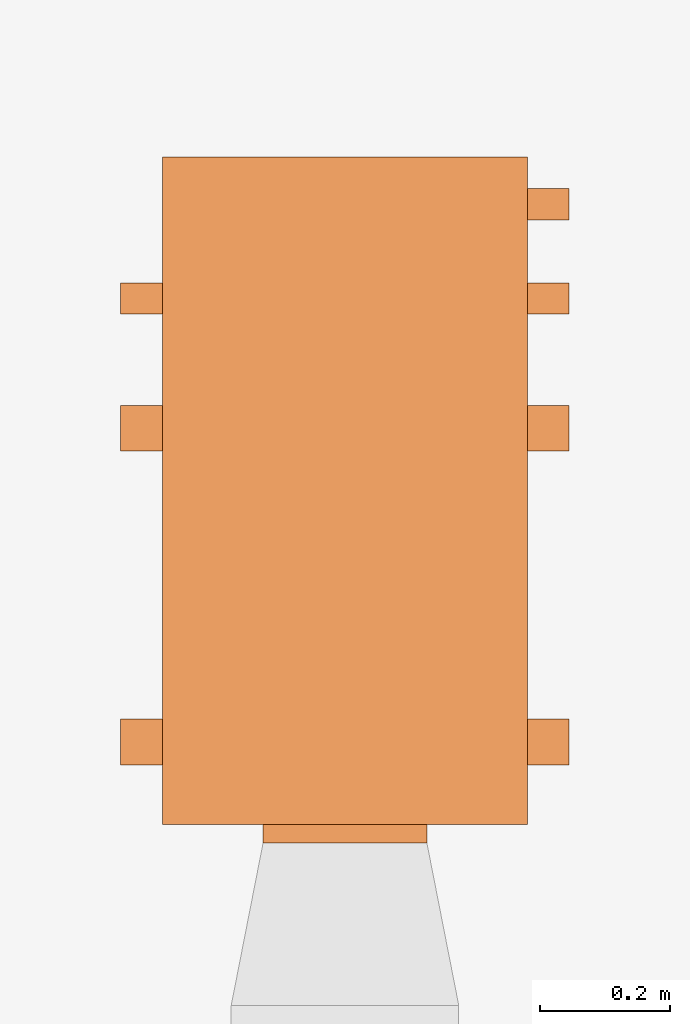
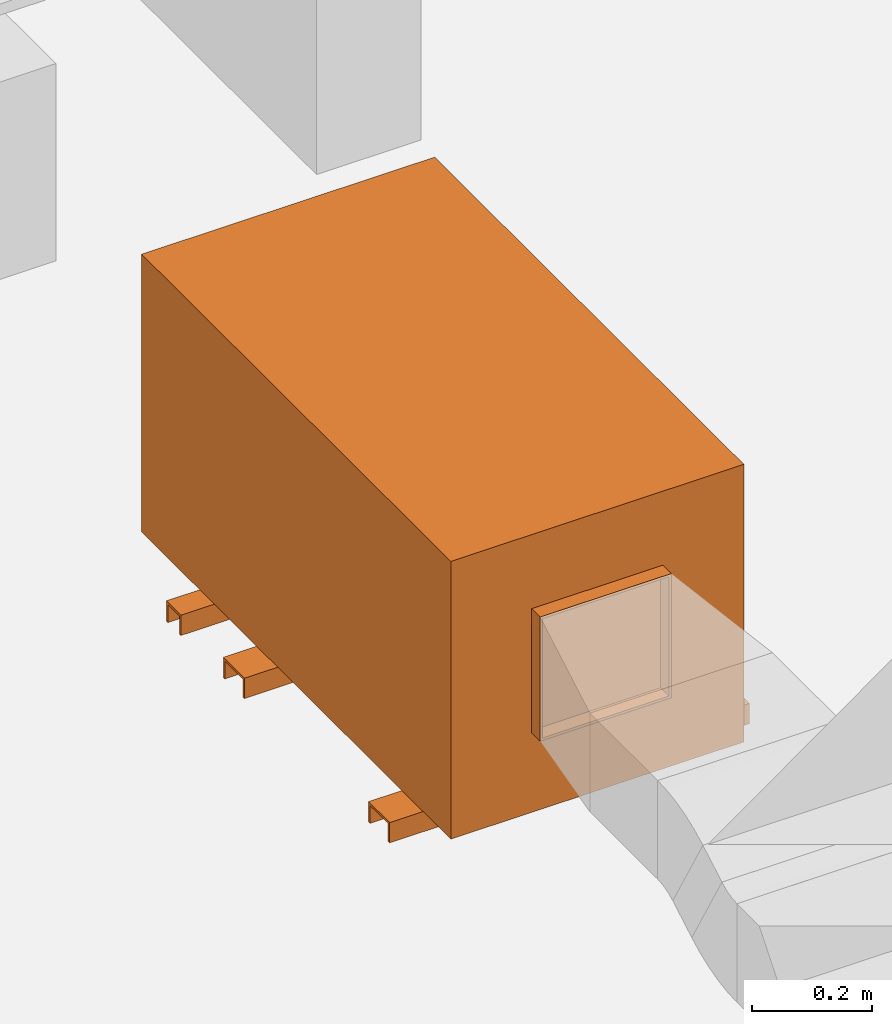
# One storey, part 9 of 10: 1 proxy.
"""IFC2X3 building model written with IfcOpenShell, lengths in millimetres."""

from ifc_helpers import new_model, entity, si_unit, converted_unit, derived_unit, direction, frame, frame_2d, origin, origin_2d_with_axis, place, context, subcontext, project, spatial, polyline, rectangle, hollow_circle, outline, extrude, source, transform, mapped, material, material_list, type_object, type_shapes, element, save


model = new_model("IFC2X3")

# Units and contexts
model_context = context("Model", 3, precision=0.01, world=origin(), true_north=direction((6.123233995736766e-17, 1.0)))
body_context = subcontext(model_context, "Body", "Model", "MODEL_VIEW")
ifc_project = project(units=[si_unit("LENGTHUNIT", "METRE", prefix="MILLI"), converted_unit("PLANEANGLEUNIT", "DEGREE", entity("IfcPlaneAngleMeasure", 0.017453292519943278), si_unit("PLANEANGLEUNIT", "RADIAN"), dimensions=[0, 0, 0, 0, 0, 0, 0]), si_unit("AREAUNIT", "SQUARE_METRE"), derived_unit("THERMALTRANSMITTANCEUNIT", [(si_unit("MASSUNIT", "GRAM", prefix="KILO"), 1), (si_unit("THERMODYNAMICTEMPERATUREUNIT", "KELVIN"), -1), (si_unit("TIMEUNIT", "SECOND"), -3)])], contexts=[model_context])

# Site, building, storey
site_placement = place(None, origin())
site = spatial("IfcSite", under=ifc_project, at=site_placement, Name="Default", CompositionType="ELEMENT")
building_placement = place(site_placement, origin())
building = spatial("IfcBuilding", under=site, at=building_placement, Name="Praça Pedro II, 1301 - Centro (Sul), Teresina - PI, 64001-100", CompositionType="ELEMENT")
storey_placement = place(building_placement, frame((0.0, 0.0, 9040.0)))
storey = spatial("IfcBuildingStorey", under=building, at=storey_placement, Name="LAJE TÉCNICA", CompositionType="ELEMENT", Elevation=9040.0)

# Proxy
ifc_material_1 = material(Name="Steel, Galvanized")
ifc_material_2 = material(Name="Fabric")
ifc_material_list = material_list([ifc_material_1, ifc_material_2])
building_element_proxy_type = type_object("IfcBuildingElementProxyType", Name="GLPF-200_1000-H-B-G4_M5:GLPF 280", PredefinedType="NOTDEFINED", material=ifc_material_list)
shared_shape = source(origin(), body_context, "Body", "SweptSolid", [
    extrude(rectangle(XDim=561.9999999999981, YDim=737.0000000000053, at=origin_2d_with_axis()), frame((0.0, 0.0, 41.0), z_axis=(0.0, 0.0, 1.0), x_axis=(-1.0, 0.0, 0.0)), (0.0, 0.0, 1.0), 4.999999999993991),
    extrude(outline(polyline([(-368.5000000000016, -281.0), (368.5000000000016, -281.0), (368.5000000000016, 281.0), (-368.5000000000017, 281.0), (-368.5000000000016, -281.0)]), holes=[polyline([(363.5000000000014, -276.0), (-363.5000000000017, -276.0), (-363.50000000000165, 276.0), (363.5000000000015, 276.0), (363.5000000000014, -276.0)])]), frame((0.0, 0.0, 46.0), z_axis=(0.0, 0.0, 1.0), x_axis=(0.0, 1.0, 0.0)), (0.0, 0.0, 1.0), 553.0000000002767),
    extrude(rectangle(XDim=562.0000000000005, YDim=737.0000000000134, at=origin_2d_with_axis()), frame((0.0, 0.0, 599.0), z_axis=(0.0, 0.0, 1.0), x_axis=(-1.0, 0.0, 0.0)), (0.0, 0.0, 1.0), 5.000000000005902),
    extrude(hollow_circle(Radius=190.00000000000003, WallThickness=50.00000000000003, at=frame_2d((-5.805957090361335e-15, -3.0455638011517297e-13), x_axis=(1.0, 0.0))), frame((0.0, 368.4999999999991, 302.0), z_axis=(0.0, 1.0, 0.0), x_axis=(-1.0, 0.0, 0.0)), (0.0, 0.0, 1.0), 5.000000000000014),
    extrude(outline(polyline([(-19.25000000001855, -35.1250000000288), (21.74999999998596, -35.1250000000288), (21.74999999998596, 35.12499999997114), (-19.250000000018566, 35.12499999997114), (-19.250000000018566, 30.125000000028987), (16.750000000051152, 30.125000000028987), (16.750000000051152, -30.12499999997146), (-19.25000000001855, -30.12499999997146), (-19.25000000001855, -35.1250000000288)])), frame((-345.0, 241.2499999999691, 19.250000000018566), z_axis=(1.0, 0.0, 0.0), x_axis=(0.0, 0.0, 1.0)), (0.0, 0.0, 1.0), 689.9999999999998),
    extrude(outline(polyline([(-19.250000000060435, -35.125000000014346), (21.75000000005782, -35.125000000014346), (21.75000000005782, 35.12500000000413), (-19.250000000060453, 35.12500000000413), (-19.250000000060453, 30.125000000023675), (16.750000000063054, 30.125000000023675), (16.750000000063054, -30.12500000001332), (-19.250000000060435, -30.12500000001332), (-19.250000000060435, -35.125000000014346)])), frame((-345.0, -241.2499999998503, 19.250000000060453), z_axis=(1.0, 0.0, 0.0), x_axis=(0.0, 0.0, 1.0)), (0.0, 0.0, 1.0), 689.9999999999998),
    extrude(outline(polyline([(-125.94999999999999, -125.94999999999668), (125.94999999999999, -125.94999999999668), (125.94999999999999, 125.94999999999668), (-125.94999999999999, 125.94999999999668), (-125.94999999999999, -125.94999999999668)]), holes=[polyline([(-120.95000000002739, 120.95000000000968), (120.94999999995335, 120.95000000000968), (120.94999999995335, -120.94999999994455), (-120.95000000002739, -120.94999999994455), (-120.95000000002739, 120.95000000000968)])]), frame((0.0, -396.4999999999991, 328.0), z_axis=(0.0, 1.0, 0.0), x_axis=(0.0, 0.0, -1.0)), (0.0, 0.0, 1.0), 27.999999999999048),
    extrude(outline(polyline([(-19.2500000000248, -24.166666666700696), (21.75000000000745, -24.166666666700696), (21.75000000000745, 24.166666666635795), (-19.25000000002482, 24.166666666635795), (-19.25000000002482, 19.166666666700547), (16.75000000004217, 19.166666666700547), (16.75000000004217, -19.16666666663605), (-19.2500000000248, -19.16666666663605), (-19.2500000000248, -24.166666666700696)])), frame((-345.0, 441.0, 19.25000000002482), z_axis=(1.0, 0.0, 0.0), x_axis=(0.0, 0.0, 1.0)), (0.0, 0.0, 1.0), 689.9999999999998),
    extrude(outline(polyline([(-281.0, -281.4999999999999), (281.0, -281.4999999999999), (281.0, 281.4999999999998), (-281.0, 281.4999999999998), (-281.0, -281.4999999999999)]), holes=[polyline([(-276.0, -276.50000000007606), (-276.0, 276.49999999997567), (276.0, 276.4999999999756), (276.0, -276.5000000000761), (-276.0, -276.50000000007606)])]), frame((0.0, 368.4999999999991, 322.5000000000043), z_axis=(0.0, 1.0, 0.0), x_axis=(1.0, 0.0, 0.0)), (0.0, 0.0, 1.0), 145.00000000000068),
    extrude(rectangle(XDim=19.99999999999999, YDim=551.9999999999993, at=frame_2d((3.375077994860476e-14, 0.0), x_axis=(1.0, 0.0))), frame((0.0, 441.0, 46.0), z_axis=(0.0, 0.0, 1.0), x_axis=(0.0, -1.0, 0.0)), (0.0, 0.0, 1.0), 553.0000000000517),
    extrude(outline(polyline([(-281.0, -281.4999999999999), (281.0, -281.4999999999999), (281.0, 281.4999999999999), (-281.0, 281.4999999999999), (-281.0, -281.4999999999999)]), holes=[polyline([(-276.0, -276.500000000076), (-276.0, 276.4999999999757), (276.0, 276.4999999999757), (276.0, -276.500000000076), (-276.0, -276.500000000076)])]), frame((0.0, 513.4999999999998, 322.5000000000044), z_axis=(0.0, 1.0, 0.0), x_axis=(1.0, 0.0, 0.0)), (0.0, 0.0, 1.0), 145.0000000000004),
    extrude(outline(polyline([(-19.250000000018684, -24.166666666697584), (21.750000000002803, -24.166666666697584), (21.750000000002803, 24.16666666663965), (-19.2500000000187, 24.16666666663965), (-19.2500000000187, 19.166666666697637), (16.7500000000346, 19.166666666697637), (16.7500000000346, -19.166666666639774), (-19.250000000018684, -19.166666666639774), (-19.250000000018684, -24.166666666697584)])), frame((-175.0, 586.0, 19.2500000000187), z_axis=(1.0, 0.0, 0.0), x_axis=(0.0, 0.0, 1.0)), (0.0, 0.0, 1.0), 520.0),
    extrude(rectangle(XDim=19.99999999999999, YDim=552.0000000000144, at=frame_2d((3.375077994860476e-14, 0.0), x_axis=(1.0, 0.0))), frame((0.0, 586.0, 46.0), z_axis=(0.0, 0.0, 1.0), x_axis=(0.0, -1.0, 0.0)), (0.0, 0.0, 1.0), 553.0000000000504),
])
type_shapes(building_element_proxy_type, [shared_shape])
proxy_placement = place(storey_placement, frame((36519.070668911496, -56755.53032935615, 1081.0)))
element("IfcBuildingElementProxy", 1, at=proxy_placement, inside=storey, type_object=building_element_proxy_type, material=ifc_material_list, Name="GLPF-200_1000-H-B-G4_M5:GLPF 280", ObjectType="GLPF-200_1000-H-B-G4_M5:GLPF 280", context=body_context, shape_type="MappedRepresentation", body=[
    mapped(shared_shape, transform((0.0, 0.0, 0.0), scale=1.0)),
])

save(model, "model.ifc")
